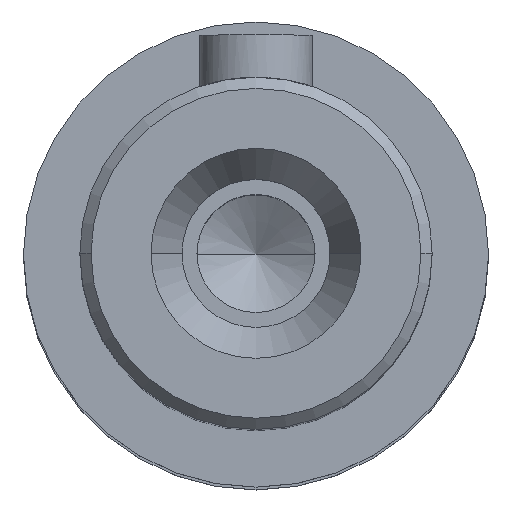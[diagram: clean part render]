
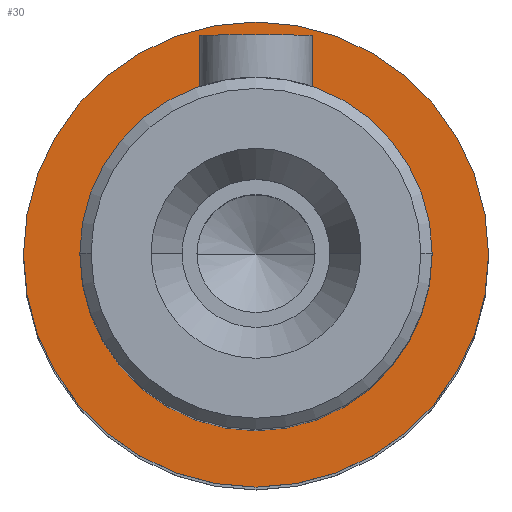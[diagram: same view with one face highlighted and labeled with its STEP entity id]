
A CAD part, top view. The second image highlights one B-rep face of the part: STEP entity #30.
In plain terms, the highlighted planar face has unit normal (0, 0, 1) as drawn and (1, 0, 0) by its records, which use the part's own axes.
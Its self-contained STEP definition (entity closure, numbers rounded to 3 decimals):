
#30=ADVANCED_FACE('',(#88,#72),#723,.T.);
#72=FACE_BOUND('',#143,.T.);
#88=FACE_OUTER_BOUND('',#142,.T.);
#142=EDGE_LOOP('',(#234,#235));
#143=EDGE_LOOP('',(#236,#237));
#234=ORIENTED_EDGE('',*,*,#460,.F.);
#235=ORIENTED_EDGE('',*,*,#398,.F.);
#236=ORIENTED_EDGE('',*,*,#463,.F.);
#237=ORIENTED_EDGE('',*,*,#403,.F.);
#398=EDGE_CURVE('',#640,#677,#538,.T.);
#403=EDGE_CURVE('',#641,#678,#540,.T.);
#460=EDGE_CURVE('',#677,#640,#566,.T.);
#463=EDGE_CURVE('',#678,#641,#568,.T.);
#538=TRIMMED_CURVE($,#586,(#1408),(#1409),.T.,.CARTESIAN.);
#540=TRIMMED_CURVE($,#588,(#1420),(#1421),.T.,.CARTESIAN.);
#566=TRIMMED_CURVE($,#614,(#1584),(#1585),.T.,.CARTESIAN.);
#568=TRIMMED_CURVE($,#616,(#1592),(#1593),.T.,.CARTESIAN.);
#586=CIRCLE('',#957,16.5);
#588=CIRCLE('',#959,12.5);
#614=CIRCLE('',#985,16.5);
#616=CIRCLE('',#987,12.5);
#640=VERTEX_POINT('',#1311);
#641=VERTEX_POINT('',#1312);
#677=VERTEX_POINT('',#1348);
#678=VERTEX_POINT('',#1349);
#723=PLANE('',#919);
#919=AXIS2_PLACEMENT_3D('',#1167,#1009,$);
#957=AXIS2_PLACEMENT_3D($,#1407,#1059,#1060);
#959=AXIS2_PLACEMENT_3D($,#1419,#1063,#1064);
#985=AXIS2_PLACEMENT_3D($,#1583,#1115,#1116);
#987=AXIS2_PLACEMENT_3D($,#1591,#1119,#1120);
#1009=DIRECTION('',(1.,0.,0.));
#1059=DIRECTION('',(-1.,0.,0.));
#1060=DIRECTION('',(0.,0.,-1.));
#1063=DIRECTION('',(1.,0.,0.));
#1064=DIRECTION('',(0.,0.,-1.));
#1115=DIRECTION('',(-1.,0.,0.));
#1116=DIRECTION('',(0.,0.,1.));
#1119=DIRECTION('',(1.,0.,0.));
#1120=DIRECTION('',(0.,0.,1.));
#1167=CARTESIAN_POINT('',(59.,-19.86,-19.86));
#1311=CARTESIAN_POINT('',(59.,0.,-16.5));
#1312=CARTESIAN_POINT('',(59.,0.,-12.5));
#1348=CARTESIAN_POINT('',(59.,0.,16.5));
#1349=CARTESIAN_POINT('',(59.,0.,12.5));
#1407=CARTESIAN_POINT('',(59.,0.,0.));
#1408=CARTESIAN_POINT('',(59.,0.,-16.5));
#1409=CARTESIAN_POINT('',(59.,0.,16.5));
#1419=CARTESIAN_POINT('',(59.,0.,0.));
#1420=CARTESIAN_POINT('',(59.,0.,-12.5));
#1421=CARTESIAN_POINT('',(59.,0.,12.5));
#1583=CARTESIAN_POINT('',(59.,0.,0.));
#1584=CARTESIAN_POINT('',(59.,0.,16.5));
#1585=CARTESIAN_POINT('',(59.,0.,-16.5));
#1591=CARTESIAN_POINT('',(59.,0.,0.));
#1592=CARTESIAN_POINT('',(59.,0.,12.5));
#1593=CARTESIAN_POINT('',(59.,0.,-12.5));
